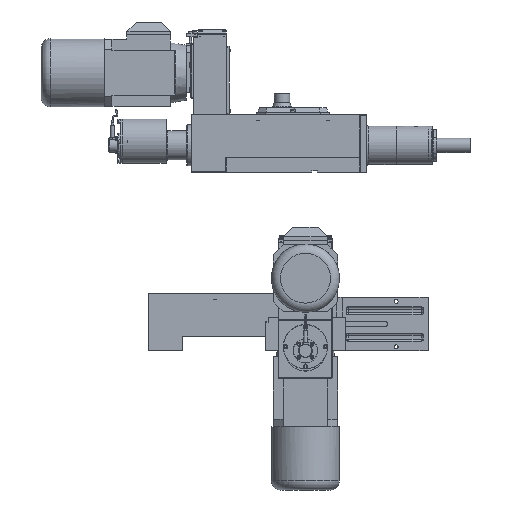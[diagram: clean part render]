
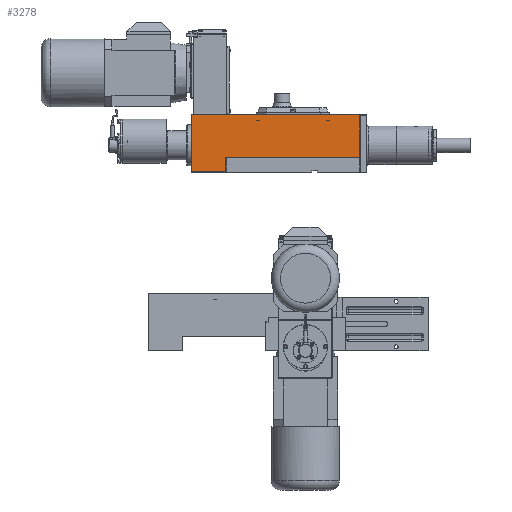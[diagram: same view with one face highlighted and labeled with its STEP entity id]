
A CAD part, front view. The second image highlights one B-rep face of the part: STEP entity #3278.
In plain terms, the highlighted planar face has unit normal (0, -1, 0).
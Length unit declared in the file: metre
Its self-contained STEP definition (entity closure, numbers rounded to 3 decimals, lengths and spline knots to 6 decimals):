
#3278 = ADVANCED_FACE( '', ( #5204 ), #5205, .T. );
#5204 = FACE_OUTER_BOUND( '', #7965, .T. );
#5205 = PLANE( '', #7966 );
#7965 = EDGE_LOOP( '', ( #14018, #14019, #14020, #14021, #14022, #14023 ) );
#7966 = AXIS2_PLACEMENT_3D( '', #14024, #14025, #14026 );
#14018 = ORIENTED_EDGE( '', *, *, #17944, .F. );
#14019 = ORIENTED_EDGE( '', *, *, #17951, .F. );
#14020 = ORIENTED_EDGE( '', *, *, #17952, .F. );
#14021 = ORIENTED_EDGE( '', *, *, #17938, .F. );
#14022 = ORIENTED_EDGE( '', *, *, #17897, .T. );
#14023 = ORIENTED_EDGE( '', *, *, #17953, .T. );
#14024 = CARTESIAN_POINT( '', ( 0.025, -0.019444, 0. ) );
#14025 = DIRECTION( '', ( 0., -1., 0. ) );
#14026 = DIRECTION( '', ( 0., 0., -1. ) );
#17897 = EDGE_CURVE( '', #20806, #20804, #20807, .T. );
#17938 = EDGE_CURVE( '', #20806, #20771, #20873, .T. );
#17944 = EDGE_CURVE( '', #20864, #20879, #20881, .T. );
#17951 = EDGE_CURVE( '', #20869, #20864, #20892, .T. );
#17952 = EDGE_CURVE( '', #20771, #20869, #20893, .T. );
#17953 = EDGE_CURVE( '', #20804, #20879, #20894, .T. );
#20771 = VERTEX_POINT( '', #25809 );
#20804 = VERTEX_POINT( '', #25860 );
#20806 = VERTEX_POINT( '', #25863 );
#20807 = LINE( '', #25864, #25865 );
#20864 = VERTEX_POINT( '', #25947 );
#20869 = VERTEX_POINT( '', #25955 );
#20873 = LINE( '', #25962, #25963 );
#20879 = VERTEX_POINT( '', #25973 );
#20881 = LINE( '', #25976, #25977 );
#20892 = LINE( '', #25990, #25991 );
#20893 = LINE( '', #25992, #25993 );
#20894 = LINE( '', #25994, #25995 );
#25809 = CARTESIAN_POINT( '', ( -0.3465, -0.019444, 0.0005 ) );
#25860 = CARTESIAN_POINT( '', ( -0.271, -0.019444, 0.032 ) );
#25863 = CARTESIAN_POINT( '', ( -0.271, -0.019444, 0.0005 ) );
#25864 = CARTESIAN_POINT( '', ( -0.271, -0.019444, 0. ) );
#25865 = VECTOR( '', #30668, 1. );
#25947 = CARTESIAN_POINT( '', ( 0.0245, -0.019444, 0.1265 ) );
#25955 = CARTESIAN_POINT( '', ( -0.3465, -0.019444, 0.1265 ) );
#25962 = CARTESIAN_POINT( '', ( -0.068, -0.019444, 0.0005 ) );
#25963 = VECTOR( '', #30727, 1. );
#25973 = CARTESIAN_POINT( '', ( 0.0245, -0.019444, 0.032 ) );
#25976 = CARTESIAN_POINT( '', ( 0.0245, -0.019444, 0. ) );
#25977 = VECTOR( '', #30733, 1. );
#25990 = CARTESIAN_POINT( '', ( -0.068, -0.019444, 0.1265 ) );
#25991 = VECTOR( '', #30748, 1. );
#25992 = CARTESIAN_POINT( '', ( -0.3465, -0.019444, 0. ) );
#25993 = VECTOR( '', #30749, 1. );
#25994 = CARTESIAN_POINT( '', ( -0.049, -0.019444, 0.032 ) );
#25995 = VECTOR( '', #30750, 1. );
#30668 = DIRECTION( '', ( 0., 0., 1. ) );
#30727 = DIRECTION( '', ( -1., 0., 0. ) );
#30733 = DIRECTION( '', ( 0., 0., -1. ) );
#30748 = DIRECTION( '', ( 1., 0., 0. ) );
#30749 = DIRECTION( '', ( 0., 0., 1. ) );
#30750 = DIRECTION( '', ( 1., 0., 0. ) );
